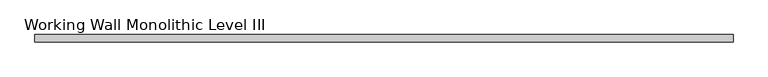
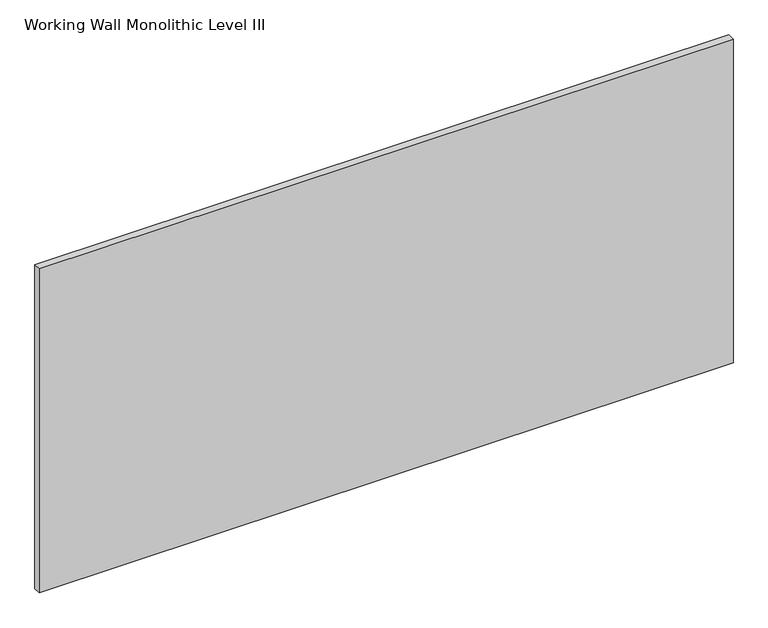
"""IFC4 building model written with IfcOpenShell, lengths in millimetres: proxy geometry, Panel-Fascia-Teknion-Altos-Standard : Working Wall Monolithic Level III."""

from ifc_helpers import new_model, si_unit, frame, origin, place, context, project, spatial, polyline, outline, extrude, source, transform, mapped, element, save


def working_wall_monolithic_level_iii_599cdcd6(model_context):
    return source(origin(), model_context, "Body", "SweptSolid", [
        extrude(outline(polyline([(904.2300781, 9.525), (904.2300781, -9.525), (-904.2300781, -9.525), (-904.2300781, 9.525), (904.2300781, 9.525)])), frame((0.0, 0.0, 3.175), z_axis=(0.0, 0.0, 1.0), x_axis=(1.0, 0.0, 0.0)), (0.0, 0.0, 1.0), 892.175),
    ])


if __name__ == "__main__":
    model = new_model("IFC4")
    model_context = context("Model", 3, world=origin())
    ifc_project = project(units=[si_unit("LENGTHUNIT", "METRE", prefix="MILLI")], contexts=[model_context])
    site = spatial("IfcSite", under=ifc_project)
    building = spatial("IfcBuilding", under=site)
    placement = place(None, origin())
    working_wall_monolithic_level_iii_shape = working_wall_monolithic_level_iii_599cdcd6(model_context)
    element("IfcBuildingElementProxy", 1, Name="Panel-Fascia-Teknion-Altos-Standard : Working Wall Monolithic Level III", ObjectType="Panel-Fascia-Teknion-Altos-Standard : Working Wall Monolithic Level III", at=placement, inside=building, context=model_context, shape_type="MappedRepresentation", body=[
        mapped(working_wall_monolithic_level_iii_shape, transform((0.0, 0.0, 0.0), x_axis=(1.0, 0.0, 0.0), y_axis=(0.0, 1.0, 0.0), z_axis=(0.0, 0.0, 1.0))),
    ])
    save(model, "model.ifc")
